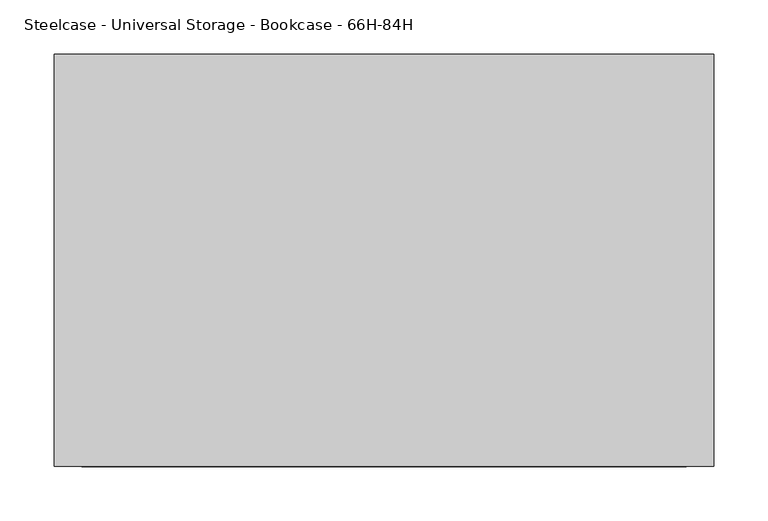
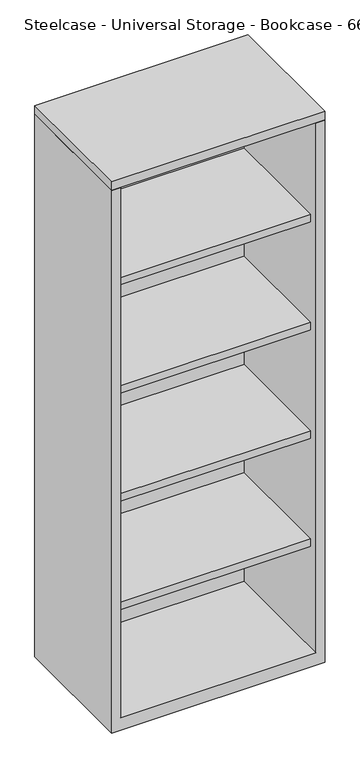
"""IFC4 building model written with IfcOpenShell, lengths in millimetres: furniture geometry, Steelcase - Universal Storage - Bookcase - 66H-84H : 65 1/2H x 24W."""

from ifc_helpers import new_model, si_unit, frame, origin, place, context, project, spatial, polyline, outline, extrude, faceted_brep, source, transform, mapped, element, save


def steelcase_universal_storage_bookcase_66h_84h_ac19e734(model_context):
    return source(origin(), model_context, "Body", "SolidModel", [
        extrude(outline(polyline([(609.6, -98.552), (609.6, -479.552), (0.0, -479.552), (0.0, -98.552), (609.6, -98.552)])), frame((0.0, 0.0, 1639.8239516), z_axis=(0.0, 0.0, 1.0), x_axis=(1.0, 0.0, 0.0)), (0.0, 0.0, 1.0), 25.4000484),
        extrude(outline(polyline([(584.2000242, -123.9520008), (584.2000242, -454.0250121), (25.4000008, -454.0250121), (25.4000008, -123.9520008), (584.2000242, -123.9520008)])), frame((0.0, 0.0, 344.424), z_axis=(0.0, 0.0, 1.0), x_axis=(1.0, 0.0, 0.0)), (0.0, 0.0, 1.0), 22.2249516),
        extrude(outline(polyline([(584.2000242, -123.9520008), (584.2000242, -454.0250121), (25.4000008, -454.0250121), (25.4000008, -123.9520008), (584.2000242, -123.9520008)])), frame((0.0, 0.0, 671.4489516), z_axis=(0.0, 0.0, 1.0), x_axis=(1.0, 0.0, 0.0)), (0.0, 0.0, 1.0), 22.2249516),
        extrude(outline(polyline([(584.2000242, -123.9520008), (584.2000242, -454.0250121), (25.4000008, -454.0250121), (25.4000008, -123.9520008), (584.2000242, -123.9520008)])), frame((0.0, 0.0, 998.4739031), z_axis=(0.0, 0.0, 1.0), x_axis=(1.0, 0.0, 0.0)), (0.0, 0.0, 1.0), 22.2249516),
        extrude(outline(polyline([(584.2000242, -123.9520008), (584.2000242, -454.0250121), (25.4000008, -454.0250121), (25.4000008, -123.9520008), (584.2000242, -123.9520008)])), frame((0.0, 0.0, 1325.4988547), z_axis=(0.0, 0.0, 1.0), x_axis=(1.0, 0.0, 0.0)), (0.0, 0.0, 1.0), 22.2249516),
        faceted_brep([(25.4000008, -479.552, 38.1), (584.2000242, -479.552, 38.1), (584.2000242, -123.9520008, 38.1), (25.4000008, -123.9520008, 38.1), (609.6, -98.552, 0.0), (609.6, -479.552, 0.0), (0.0, -479.552, 0.0), (0.0, -98.552, 0.0), (0.0, -98.552, 1638.3), (609.6, -98.552, 1638.3), (0.0, -479.552, 1638.3), (609.6, -479.552, 1638.3), (584.2000242, -479.552, 1638.3), (25.4000008, -479.552, 1638.3), (584.2000242, -123.9520008, 1638.3), (25.4000008, -123.9520008, 1638.3)], [[[0, 1, 2, 3]], [[4, 5, 6, 7]], [[4, 7, 8, 9]], [[8, 7, 6, 10]], [[10, 6, 5, 11, 12, 1, 0, 13]], [[11, 5, 4, 9]], [[14, 12, 11, 9, 8, 10, 13, 15]], [[12, 14, 2, 1]], [[15, 13, 0, 3]], [[14, 15, 3, 2]]]),
    ])


if __name__ == "__main__":
    model = new_model("IFC4")
    model_context = context("Model", 3, world=origin())
    ifc_project = project(units=[si_unit("LENGTHUNIT", "METRE", prefix="MILLI")], contexts=[model_context])
    site = spatial("IfcSite", under=ifc_project)
    building = spatial("IfcBuilding", under=site)
    placement = place(None, origin())
    steelcase_universal_storage_bookcase_66h_84h_shape = steelcase_universal_storage_bookcase_66h_84h_ac19e734(model_context)
    element("IfcFurniture", 1, ObjectType="Steelcase - Universal Storage - Bookcase - 66H-84H : 65 1/2H x 24W", at=placement, inside=building, context=model_context, shape_type="MappedRepresentation", body=[
        mapped(steelcase_universal_storage_bookcase_66h_84h_shape, transform((0.0, 0.0, 0.0), x_axis=(1.0, 0.0, 0.0), y_axis=(0.0, 1.0, 0.0), z_axis=(0.0, 0.0, 1.0))),
    ])
    save(model, "model.ifc")
